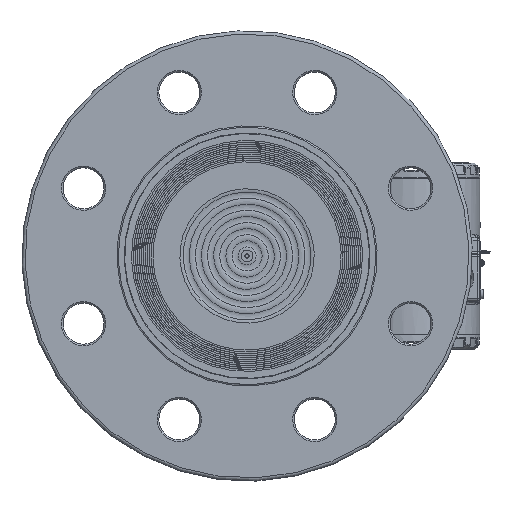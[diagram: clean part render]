
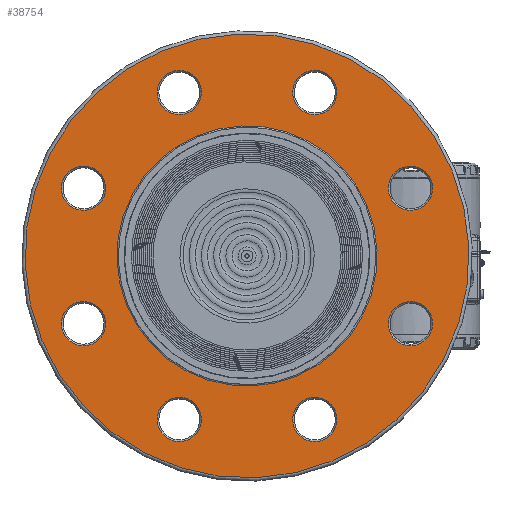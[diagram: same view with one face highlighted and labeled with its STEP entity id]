
A CAD part, top view. The second image highlights one B-rep face of the part: STEP entity #38754.
In plain terms, the highlighted planar face has unit normal (0, 0, 1) as drawn and (-1, 0, 0) by its records, which use the part's own axes.
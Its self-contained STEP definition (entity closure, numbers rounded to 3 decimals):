
#753=FACE_BOUND('',#6589,.T.);
#754=FACE_BOUND('',#6590,.T.);
#755=FACE_BOUND('',#6591,.T.);
#756=FACE_BOUND('',#6592,.T.);
#757=FACE_BOUND('',#6593,.T.);
#758=FACE_BOUND('',#6594,.T.);
#759=FACE_BOUND('',#6595,.T.);
#760=FACE_BOUND('',#6596,.T.);
#761=FACE_BOUND('',#6597,.T.);
#2735=PLANE('',#43057);
#3944=FACE_OUTER_BOUND('',#6588,.T.);
#6588=EDGE_LOOP('',(#29630,#29631));
#6589=EDGE_LOOP('',(#29632));
#6590=EDGE_LOOP('',(#29633));
#6591=EDGE_LOOP('',(#29634));
#6592=EDGE_LOOP('',(#29635));
#6593=EDGE_LOOP('',(#29636,#29637));
#6594=EDGE_LOOP('',(#29638));
#6595=EDGE_LOOP('',(#29639));
#6596=EDGE_LOOP('',(#29640));
#6597=EDGE_LOOP('',(#29641));
#12424=CIRCLE('',#43056,13.5);
#12425=CIRCLE('',#43058,135.5);
#12426=CIRCLE('',#43059,135.5);
#12427=CIRCLE('',#43060,13.5);
#12428=CIRCLE('',#43061,13.5);
#12429=CIRCLE('',#43062,13.5);
#12430=CIRCLE('',#43063,13.5);
#12431=CIRCLE('',#43064,79.4);
#12432=CIRCLE('',#43065,79.4);
#12433=CIRCLE('',#43066,13.5);
#12434=CIRCLE('',#43067,13.5);
#12435=CIRCLE('',#43068,13.5);
#16915=VERTEX_POINT('',#69073);
#16916=VERTEX_POINT('',#69077);
#16917=VERTEX_POINT('',#69078);
#16918=VERTEX_POINT('',#69081);
#16919=VERTEX_POINT('',#69083);
#16920=VERTEX_POINT('',#69085);
#16921=VERTEX_POINT('',#69087);
#16922=VERTEX_POINT('',#69089);
#16923=VERTEX_POINT('',#69090);
#16924=VERTEX_POINT('',#69093);
#16925=VERTEX_POINT('',#69095);
#16926=VERTEX_POINT('',#69097);
#21394=EDGE_CURVE('',#16915,#16915,#12424,.T.);
#21396=EDGE_CURVE('',#16916,#16917,#12425,.T.);
#21397=EDGE_CURVE('',#16917,#16916,#12426,.T.);
#21398=EDGE_CURVE('',#16918,#16918,#12427,.T.);
#21399=EDGE_CURVE('',#16919,#16919,#12428,.T.);
#21400=EDGE_CURVE('',#16920,#16920,#12429,.T.);
#21401=EDGE_CURVE('',#16921,#16921,#12430,.T.);
#21402=EDGE_CURVE('',#16922,#16923,#12431,.T.);
#21403=EDGE_CURVE('',#16923,#16922,#12432,.T.);
#21404=EDGE_CURVE('',#16924,#16924,#12433,.T.);
#21405=EDGE_CURVE('',#16925,#16925,#12434,.T.);
#21406=EDGE_CURVE('',#16926,#16926,#12435,.T.);
#29630=ORIENTED_EDGE('',*,*,#21396,.F.);
#29631=ORIENTED_EDGE('',*,*,#21397,.F.);
#29632=ORIENTED_EDGE('',*,*,#21398,.F.);
#29633=ORIENTED_EDGE('',*,*,#21399,.F.);
#29634=ORIENTED_EDGE('',*,*,#21400,.F.);
#29635=ORIENTED_EDGE('',*,*,#21401,.F.);
#29636=ORIENTED_EDGE('',*,*,#21402,.T.);
#29637=ORIENTED_EDGE('',*,*,#21403,.T.);
#29638=ORIENTED_EDGE('',*,*,#21404,.F.);
#29639=ORIENTED_EDGE('',*,*,#21405,.F.);
#29640=ORIENTED_EDGE('',*,*,#21406,.F.);
#29641=ORIENTED_EDGE('',*,*,#21394,.F.);
#38754=ADVANCED_FACE('',(#3944,#753,#754,#755,#756,#757,#758,#759,#760,
#761),#2735,.T.);
#43056=AXIS2_PLACEMENT_3D('',#69074,#50989,#50990);
#43057=AXIS2_PLACEMENT_3D('',#69076,#50992,#50993);
#43058=AXIS2_PLACEMENT_3D('',#69079,#50994,#50995);
#43059=AXIS2_PLACEMENT_3D('',#69080,#50996,#50997);
#43060=AXIS2_PLACEMENT_3D('',#69082,#50998,#50999);
#43061=AXIS2_PLACEMENT_3D('',#69084,#51000,#51001);
#43062=AXIS2_PLACEMENT_3D('',#69086,#51002,#51003);
#43063=AXIS2_PLACEMENT_3D('',#69088,#51004,#51005);
#43064=AXIS2_PLACEMENT_3D('',#69091,#51006,#51007);
#43065=AXIS2_PLACEMENT_3D('',#69092,#51008,#51009);
#43066=AXIS2_PLACEMENT_3D('',#69094,#51010,#51011);
#43067=AXIS2_PLACEMENT_3D('',#69096,#51012,#51013);
#43068=AXIS2_PLACEMENT_3D('',#69098,#51014,#51015);
#50989=DIRECTION('center_axis',(-1.,0.,0.));
#50990=DIRECTION('ref_axis',(0.,-0.707,-0.707));
#50992=DIRECTION('center_axis',(-1.,0.,0.));
#50993=DIRECTION('ref_axis',(0.,0.,1.));
#50994=DIRECTION('center_axis',(1.,0.,0.));
#50995=DIRECTION('ref_axis',(0.,1.,0.));
#50996=DIRECTION('center_axis',(1.,0.,0.));
#50997=DIRECTION('ref_axis',(0.,1.,0.));
#50998=DIRECTION('center_axis',(-1.,0.,0.));
#50999=DIRECTION('ref_axis',(0.,-1.,0.));
#51000=DIRECTION('center_axis',(-1.,0.,0.));
#51001=DIRECTION('ref_axis',(0.,0.,1.));
#51002=DIRECTION('center_axis',(-1.,0.,0.));
#51003=DIRECTION('ref_axis',(0.,1.,0.));
#51004=DIRECTION('center_axis',(-1.,0.,0.));
#51005=DIRECTION('ref_axis',(0.,0.,-1.));
#51006=DIRECTION('center_axis',(1.,0.,0.));
#51007=DIRECTION('ref_axis',(0.,1.,0.));
#51008=DIRECTION('center_axis',(1.,0.,0.));
#51009=DIRECTION('ref_axis',(0.,1.,0.));
#51010=DIRECTION('center_axis',(-1.,0.,0.));
#51011=DIRECTION('ref_axis',(0.,0.707,-0.707));
#51012=DIRECTION('center_axis',(-1.,0.,0.));
#51013=DIRECTION('ref_axis',(0.,0.707,0.707));
#51014=DIRECTION('center_axis',(-1.,0.,0.));
#51015=DIRECTION('ref_axis',(0.,-0.707,0.707));
#69073=CARTESIAN_POINT('',(7.,85.913,85.913));
#69074=CARTESIAN_POINT('Origin',(7.,76.368,76.368));
#69076=CARTESIAN_POINT('Origin',(7.,107.45,0.));
#69077=CARTESIAN_POINT('',(7.,135.5,0.));
#69078=CARTESIAN_POINT('',(7.,0.,135.5));
#69079=CARTESIAN_POINT('Origin',(7.,0.,0.));
#69080=CARTESIAN_POINT('Origin',(7.,0.,0.));
#69081=CARTESIAN_POINT('',(7.,121.5,0.));
#69082=CARTESIAN_POINT('Origin',(7.,108.,0.));
#69083=CARTESIAN_POINT('',(7.,0.,-121.5));
#69084=CARTESIAN_POINT('Origin',(7.,0.,-108.));
#69085=CARTESIAN_POINT('',(7.,-121.5,0.));
#69086=CARTESIAN_POINT('Origin',(7.,-108.,0.));
#69087=CARTESIAN_POINT('',(7.,0.,121.5));
#69088=CARTESIAN_POINT('Origin',(7.,0.,108.));
#69089=CARTESIAN_POINT('',(7.,79.4,0.));
#69090=CARTESIAN_POINT('',(7.,0.,79.4));
#69091=CARTESIAN_POINT('Origin',(7.,0.,0.));
#69092=CARTESIAN_POINT('Origin',(7.,0.,0.));
#69093=CARTESIAN_POINT('',(7.,-85.913,85.913));
#69094=CARTESIAN_POINT('Origin',(7.,-76.368,76.368));
#69095=CARTESIAN_POINT('',(7.,-85.913,-85.913));
#69096=CARTESIAN_POINT('Origin',(7.,-76.368,-76.368));
#69097=CARTESIAN_POINT('',(7.,85.913,-85.913));
#69098=CARTESIAN_POINT('Origin',(7.,76.368,-76.368));
